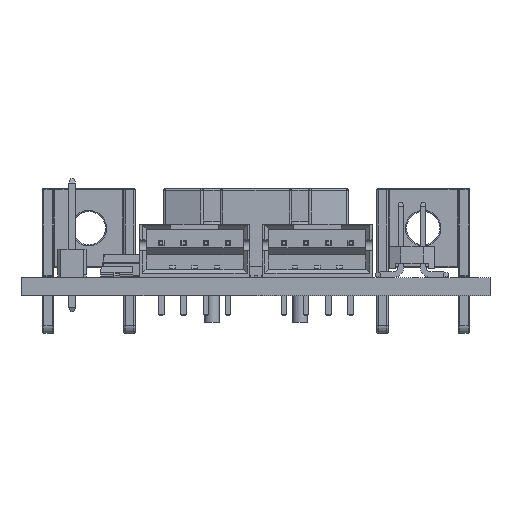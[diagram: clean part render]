
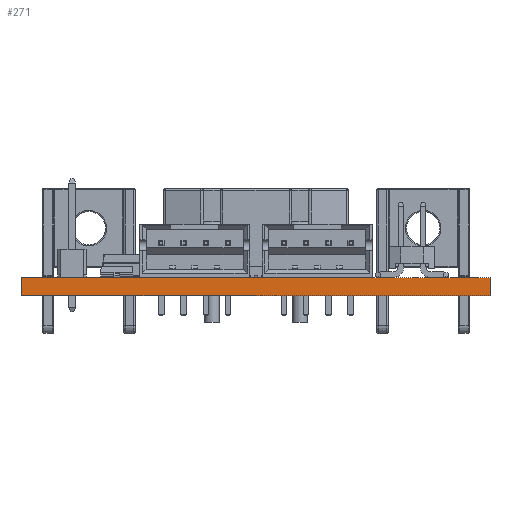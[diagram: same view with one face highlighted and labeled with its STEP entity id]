
A CAD part, left-side view. The second image highlights one B-rep face of the part: STEP entity #271.
In plain terms, the highlighted planar face has unit normal (-1, 0, 0).
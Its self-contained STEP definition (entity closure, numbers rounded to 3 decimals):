
#166 = PLANE('',#167);
#167 = AXIS2_PLACEMENT_3D('',#168,#169,#170);
#168 = CARTESIAN_POINT('',(44.,0.,0.));
#169 = DIRECTION('',(0.,-1.,0.));
#170 = DIRECTION('',(-1.,0.,0.));
#191 = VERTEX_POINT('',#192);
#192 = CARTESIAN_POINT('',(0.,0.,1.646));
#206 = PLANE('',#207);
#207 = AXIS2_PLACEMENT_3D('',#208,#209,#210);
#208 = CARTESIAN_POINT('',(44.,0.,1.646));
#209 = DIRECTION('',(0.,0.,1.));
#210 = DIRECTION('',(1.,0.,-0.));
#218 = EDGE_CURVE('',#219,#191,#221,.T.);
#219 = VERTEX_POINT('',#220);
#220 = CARTESIAN_POINT('',(0.,0.,0.));
#221 = SURFACE_CURVE('',#222,(#226,#233),.PCURVE_S1.);
#222 = LINE('',#223,#224);
#223 = CARTESIAN_POINT('',(0.,0.,0.));
#224 = VECTOR('',#225,1.);
#225 = DIRECTION('',(0.,0.,1.));
#226 = PCURVE('',#166,#227);
#227 = DEFINITIONAL_REPRESENTATION('',(#228),#232);
#228 = LINE('',#229,#230);
#229 = CARTESIAN_POINT('',(44.,0.));
#230 = VECTOR('',#231,1.);
#231 = DIRECTION('',(0.,-1.));
#232 = ( GEOMETRIC_REPRESENTATION_CONTEXT(2) 
PARAMETRIC_REPRESENTATION_CONTEXT() REPRESENTATION_CONTEXT('2D SPACE',''
  ) );
#233 = PCURVE('',#234,#239);
#234 = PLANE('',#235);
#235 = AXIS2_PLACEMENT_3D('',#236,#237,#238);
#236 = CARTESIAN_POINT('',(0.,0.,0.));
#237 = DIRECTION('',(-1.,0.,0.));
#238 = DIRECTION('',(0.,1.,0.));
#239 = DEFINITIONAL_REPRESENTATION('',(#240),#244);
#240 = LINE('',#241,#242);
#241 = CARTESIAN_POINT('',(0.,0.));
#242 = VECTOR('',#243,1.);
#243 = DIRECTION('',(0.,-1.));
#244 = ( GEOMETRIC_REPRESENTATION_CONTEXT(2) 
PARAMETRIC_REPRESENTATION_CONTEXT() REPRESENTATION_CONTEXT('2D SPACE',''
  ) );
#260 = PLANE('',#261);
#261 = AXIS2_PLACEMENT_3D('',#262,#263,#264);
#262 = CARTESIAN_POINT('',(44.,0.,0.));
#263 = DIRECTION('',(0.,0.,1.));
#264 = DIRECTION('',(1.,0.,-0.));
#271 = ADVANCED_FACE('',(#272),#234,.T.);
#272 = FACE_BOUND('',#273,.T.);
#273 = EDGE_LOOP('',(#274,#275,#298,#326));
#274 = ORIENTED_EDGE('',*,*,#218,.T.);
#275 = ORIENTED_EDGE('',*,*,#276,.T.);
#276 = EDGE_CURVE('',#191,#277,#279,.T.);
#277 = VERTEX_POINT('',#278);
#278 = CARTESIAN_POINT('',(0.,42.,1.646));
#279 = SURFACE_CURVE('',#280,(#284,#291),.PCURVE_S1.);
#280 = LINE('',#281,#282);
#281 = CARTESIAN_POINT('',(0.,0.,1.646));
#282 = VECTOR('',#283,1.);
#283 = DIRECTION('',(0.,1.,0.));
#284 = PCURVE('',#234,#285);
#285 = DEFINITIONAL_REPRESENTATION('',(#286),#290);
#286 = LINE('',#287,#288);
#287 = CARTESIAN_POINT('',(0.,-1.646));
#288 = VECTOR('',#289,1.);
#289 = DIRECTION('',(1.,0.));
#290 = ( GEOMETRIC_REPRESENTATION_CONTEXT(2) 
PARAMETRIC_REPRESENTATION_CONTEXT() REPRESENTATION_CONTEXT('2D SPACE',''
  ) );
#291 = PCURVE('',#206,#292);
#292 = DEFINITIONAL_REPRESENTATION('',(#293),#297);
#293 = LINE('',#294,#295);
#294 = CARTESIAN_POINT('',(-44.,0.));
#295 = VECTOR('',#296,1.);
#296 = DIRECTION('',(0.,1.));
#297 = ( GEOMETRIC_REPRESENTATION_CONTEXT(2) 
PARAMETRIC_REPRESENTATION_CONTEXT() REPRESENTATION_CONTEXT('2D SPACE',''
  ) );
#298 = ORIENTED_EDGE('',*,*,#299,.F.);
#299 = EDGE_CURVE('',#300,#277,#302,.T.);
#300 = VERTEX_POINT('',#301);
#301 = CARTESIAN_POINT('',(0.,42.,0.));
#302 = SURFACE_CURVE('',#303,(#307,#314),.PCURVE_S1.);
#303 = LINE('',#304,#305);
#304 = CARTESIAN_POINT('',(0.,42.,0.));
#305 = VECTOR('',#306,1.);
#306 = DIRECTION('',(0.,0.,1.));
#307 = PCURVE('',#234,#308);
#308 = DEFINITIONAL_REPRESENTATION('',(#309),#313);
#309 = LINE('',#310,#311);
#310 = CARTESIAN_POINT('',(42.,0.));
#311 = VECTOR('',#312,1.);
#312 = DIRECTION('',(0.,-1.));
#313 = ( GEOMETRIC_REPRESENTATION_CONTEXT(2) 
PARAMETRIC_REPRESENTATION_CONTEXT() REPRESENTATION_CONTEXT('2D SPACE',''
  ) );
#314 = PCURVE('',#315,#320);
#315 = PLANE('',#316);
#316 = AXIS2_PLACEMENT_3D('',#317,#318,#319);
#317 = CARTESIAN_POINT('',(0.,42.,0.));
#318 = DIRECTION('',(0.,1.,0.));
#319 = DIRECTION('',(1.,0.,0.));
#320 = DEFINITIONAL_REPRESENTATION('',(#321),#325);
#321 = LINE('',#322,#323);
#322 = CARTESIAN_POINT('',(0.,0.));
#323 = VECTOR('',#324,1.);
#324 = DIRECTION('',(0.,-1.));
#325 = ( GEOMETRIC_REPRESENTATION_CONTEXT(2) 
PARAMETRIC_REPRESENTATION_CONTEXT() REPRESENTATION_CONTEXT('2D SPACE',''
  ) );
#326 = ORIENTED_EDGE('',*,*,#327,.F.);
#327 = EDGE_CURVE('',#219,#300,#328,.T.);
#328 = SURFACE_CURVE('',#329,(#333,#340),.PCURVE_S1.);
#329 = LINE('',#330,#331);
#330 = CARTESIAN_POINT('',(0.,0.,0.));
#331 = VECTOR('',#332,1.);
#332 = DIRECTION('',(0.,1.,0.));
#333 = PCURVE('',#234,#334);
#334 = DEFINITIONAL_REPRESENTATION('',(#335),#339);
#335 = LINE('',#336,#337);
#336 = CARTESIAN_POINT('',(0.,0.));
#337 = VECTOR('',#338,1.);
#338 = DIRECTION('',(1.,0.));
#339 = ( GEOMETRIC_REPRESENTATION_CONTEXT(2) 
PARAMETRIC_REPRESENTATION_CONTEXT() REPRESENTATION_CONTEXT('2D SPACE',''
  ) );
#340 = PCURVE('',#260,#341);
#341 = DEFINITIONAL_REPRESENTATION('',(#342),#346);
#342 = LINE('',#343,#344);
#343 = CARTESIAN_POINT('',(-44.,0.));
#344 = VECTOR('',#345,1.);
#345 = DIRECTION('',(0.,1.));
#346 = ( GEOMETRIC_REPRESENTATION_CONTEXT(2) 
PARAMETRIC_REPRESENTATION_CONTEXT() REPRESENTATION_CONTEXT('2D SPACE',''
  ) );
